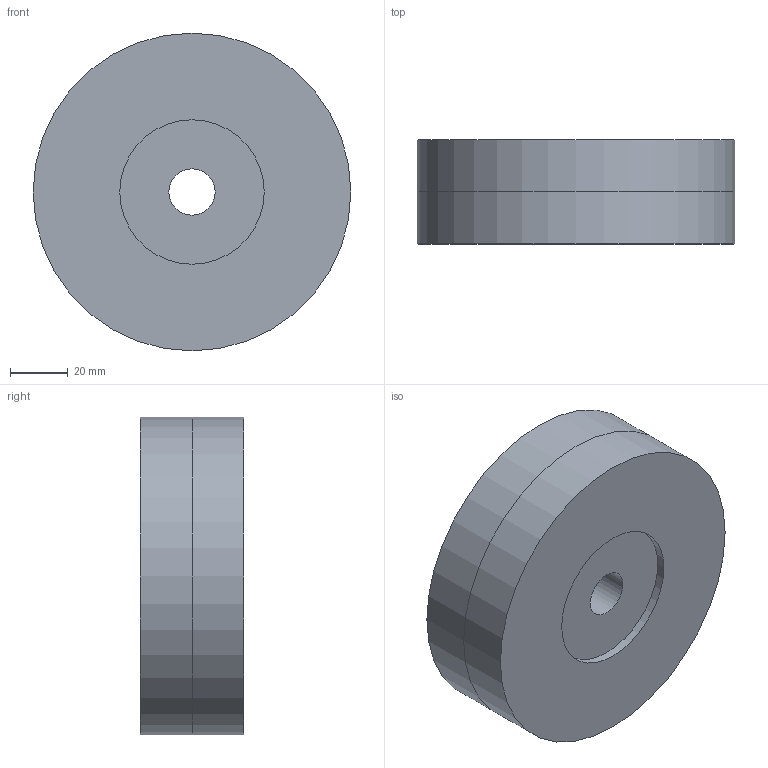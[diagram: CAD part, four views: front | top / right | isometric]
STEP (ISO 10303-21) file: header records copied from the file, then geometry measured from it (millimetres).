
FILE_DESCRIPTION(('Open CASCADE Model'),'2;1');
FILE_NAME('Open CASCADE Shape Model','2026-09-19T16:36:14',('Author'),( 'Open CASCADE'),'Open CASCADE STEP processor 7.8','Open CASCADE 7.8' ,'Unknown');
FILE_SCHEMA(('AUTOMOTIVE_DESIGN { 1 0 10303 214 1 1 1 1 }'));
Length unit declared in the file: millimetre
Products named in the file (1): Open CASCADE STEP translator 7.8 5
Bounding box: 110 x 36 x 110 mm (x, y, z)
Volume: 324306.6 mm3; surface area: 33495.7 mm2
Topology: 1 solids, 1 shells, 10 faces, 16 edges, 10 vertices
Faces by surface type: cylinder 6, plane 4
Full cylindrical faces by diameter (mm): 16 x2, 50 x2, 110 x2
Entity records: 457 total; most frequent: CARTESIAN_POINT 77, DIRECTION 77, ORIENTED_EDGE 32, PCURVE 32, DEFINITIONAL_REPRESENTATION 32, LINE 28, VECTOR 28, AXIS2_PLACEMENT_3D 21
